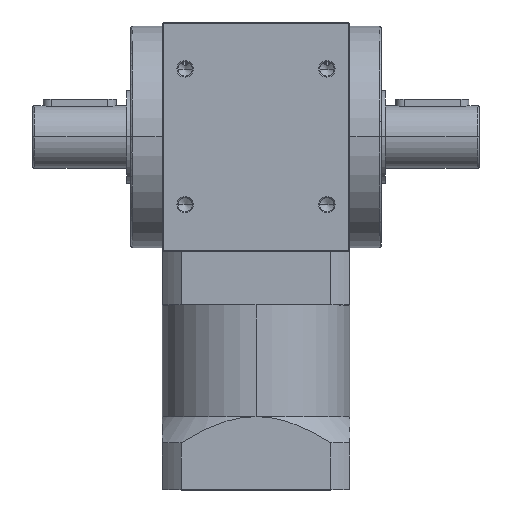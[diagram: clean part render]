
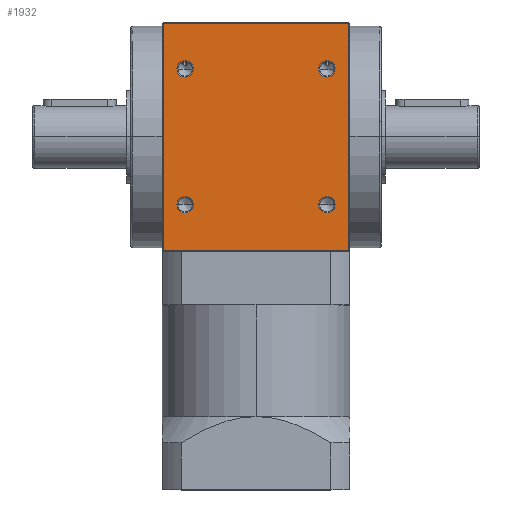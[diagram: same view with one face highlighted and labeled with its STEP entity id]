
A CAD part, top view. The second image highlights one B-rep face of the part: STEP entity #1932.
In plain terms, the highlighted planar face has unit normal (0, 0, 1).
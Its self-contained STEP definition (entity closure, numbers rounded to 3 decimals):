
#5 = CARTESIAN_POINT ( 'NONE',  ( 34., -28.6, 55. ) ) ;
#26 = DIRECTION ( 'NONE',  ( 1., 0., 0. ) ) ;
#64 = EDGE_CURVE ( 'NONE', #9703, #6211, #1436, .T. ) ;
#102 = DIRECTION ( 'NONE',  ( 0., 0., 1. ) ) ;
#118 = EDGE_CURVE ( 'NONE', #5642, #1249, #5252, .T. ) ;
#192 = EDGE_CURVE ( 'NONE', #6527, #5095, #2988, .T. ) ;
#262 = CIRCLE ( 'NONE', #8471, 3.9 ) ;
#284 = ORIENTED_EDGE ( 'NONE', *, *, #7364, .F. ) ;
#373 = DIRECTION ( 'NONE',  ( 1., 0., 0. ) ) ;
#383 = AXIS2_PLACEMENT_3D ( 'NONE', #3881, #8293, #2330 ) ;
#408 = DIRECTION ( 'NONE',  ( 0., 0., 1. ) ) ;
#441 = CARTESIAN_POINT ( 'NONE',  ( -34., -32.5, 55. ) ) ;
#667 = DIRECTION ( 'NONE',  ( 0., 0., 1. ) ) ;
#775 = CARTESIAN_POINT ( 'NONE',  ( 45., -54.5, 55. ) ) ;
#877 = VERTEX_POINT ( 'NONE', #4012 ) ;
#910 = CARTESIAN_POINT ( 'NONE',  ( 34., 32.5, 55. ) ) ;
#1032 = DIRECTION ( 'NONE',  ( 0., 0., 1. ) ) ;
#1072 = PLANE ( 'NONE',  #1179 ) ;
#1153 = AXIS2_PLACEMENT_3D ( 'NONE', #910, #6270, #1691 ) ;
#1159 = FACE_BOUND ( 'NONE', #4848, .T. ) ;
#1179 = AXIS2_PLACEMENT_3D ( 'NONE', #8748, #4190, #9488 ) ;
#1249 = VERTEX_POINT ( 'NONE', #2298 ) ;
#1400 = FACE_BOUND ( 'NONE', #2814, .T. ) ;
#1436 = CIRCLE ( 'NONE', #7246, 3.9 ) ;
#1532 = VECTOR ( 'NONE', #26, 1000. ) ;
#1648 = DIRECTION ( 'NONE',  ( 1., 0., 0. ) ) ;
#1691 = DIRECTION ( 'NONE',  ( 1., 0., 0. ) ) ;
#1719 = DIRECTION ( 'NONE',  ( 0., 0., 1. ) ) ;
#1733 = CARTESIAN_POINT ( 'NONE',  ( 34., 32.5, 55. ) ) ;
#1876 = CARTESIAN_POINT ( 'NONE',  ( 44.5, 55., 55. ) ) ;
#1890 = CARTESIAN_POINT ( 'NONE',  ( 44.5, 54.5, 55. ) ) ;
#1932 = ADVANCED_FACE ( 'NONE', ( #7250, #9255, #1400, #3436, #1159 ), #1072, .F. ) ;
#2011 = LINE ( 'NONE', #5304, #5833 ) ;
#2099 = EDGE_LOOP ( 'NONE', ( #3804, #284, #3968, #4242 ) ) ;
#2212 = ORIENTED_EDGE ( 'NONE', *, *, #2326, .F. ) ;
#2223 = ORIENTED_EDGE ( 'NONE', *, *, #2953, .F. ) ;
#2239 = DIRECTION ( 'NONE',  ( 0., 1., 0. ) ) ;
#2298 = CARTESIAN_POINT ( 'NONE',  ( -37.9, -32.5, 55. ) ) ;
#2326 = EDGE_CURVE ( 'NONE', #1249, #5642, #7100, .T. ) ;
#2330 = DIRECTION ( 'NONE',  ( 1., 0., 0. ) ) ;
#2434 = EDGE_CURVE ( 'NONE', #6053, #877, #2808, .T. ) ;
#2480 = CARTESIAN_POINT ( 'NONE',  ( -37.9, 32.5, 55. ) ) ;
#2552 = CARTESIAN_POINT ( 'NONE',  ( 34., -36.4, 55. ) ) ;
#2607 = DIRECTION ( 'NONE',  ( 0., -1., 0. ) ) ;
#2673 = ORIENTED_EDGE ( 'NONE', *, *, #5706, .F. ) ;
#2761 = CARTESIAN_POINT ( 'NONE',  ( -30.1, 32.5, 55. ) ) ;
#2796 = VERTEX_POINT ( 'NONE', #8097 ) ;
#2808 = LINE ( 'NONE', #1876, #6640 ) ;
#2814 = EDGE_LOOP ( 'NONE', ( #3882, #2673 ) ) ;
#2934 = EDGE_LOOP ( 'NONE', ( #6379, #7155 ) ) ;
#2953 = EDGE_CURVE ( 'NONE', #5095, #6527, #262, .T. ) ;
#2988 = CIRCLE ( 'NONE', #383, 3.9 ) ;
#2999 = DIRECTION ( 'NONE',  ( 0., 0., 1. ) ) ;
#3015 = EDGE_CURVE ( 'NONE', #9609, #3426, #6484, .T. ) ;
#3379 = CIRCLE ( 'NONE', #1153, 3.9 ) ;
#3408 = LINE ( 'NONE', #8088, #9556 ) ;
#3426 = VERTEX_POINT ( 'NONE', #2552 ) ;
#3436 = FACE_BOUND ( 'NONE', #2934, .T. ) ;
#3578 = LINE ( 'NONE', #775, #1532 ) ;
#3630 = AXIS2_PLACEMENT_3D ( 'NONE', #5611, #1032, #6390 ) ;
#3804 = ORIENTED_EDGE ( 'NONE', *, *, #2434, .F. ) ;
#3819 = CARTESIAN_POINT ( 'NONE',  ( -30.1, -32.5, 55. ) ) ;
#3881 = CARTESIAN_POINT ( 'NONE',  ( -34., 32.5, 55. ) ) ;
#3882 = ORIENTED_EDGE ( 'NONE', *, *, #64, .F. ) ;
#3949 = CARTESIAN_POINT ( 'NONE',  ( 37.9, 32.5, 55. ) ) ;
#3968 = ORIENTED_EDGE ( 'NONE', *, *, #4763, .F. ) ;
#4012 = CARTESIAN_POINT ( 'NONE',  ( 44.5, -54.5, 55. ) ) ;
#4031 = CIRCLE ( 'NONE', #7676, 3.9 ) ;
#4190 = DIRECTION ( 'NONE',  ( 0., 0., -1. ) ) ;
#4242 = ORIENTED_EDGE ( 'NONE', *, *, #4869, .T. ) ;
#4297 = DIRECTION ( 'NONE',  ( 1., 0., 0. ) ) ;
#4511 = CARTESIAN_POINT ( 'NONE',  ( 30.1, 32.5, 55. ) ) ;
#4698 = CARTESIAN_POINT ( 'NONE',  ( 34., -32.5, 55. ) ) ;
#4763 = EDGE_CURVE ( 'NONE', #8655, #2796, #2011, .T. ) ;
#4848 = EDGE_LOOP ( 'NONE', ( #9397, #2212 ) ) ;
#4869 = EDGE_CURVE ( 'NONE', #8655, #877, #3578, .T. ) ;
#5095 = VERTEX_POINT ( 'NONE', #2761 ) ;
#5252 = CIRCLE ( 'NONE', #8777, 3.9 ) ;
#5255 = CARTESIAN_POINT ( 'NONE',  ( -34., 32.5, 55. ) ) ;
#5304 = CARTESIAN_POINT ( 'NONE',  ( -44.5, 55., 55. ) ) ;
#5444 = DIRECTION ( 'NONE',  ( 0., -1., 0. ) ) ;
#5565 = EDGE_CURVE ( 'NONE', #3426, #9609, #4031, .T. ) ;
#5611 = CARTESIAN_POINT ( 'NONE',  ( -34., -32.5, 55. ) ) ;
#5642 = VERTEX_POINT ( 'NONE', #3819 ) ;
#5706 = EDGE_CURVE ( 'NONE', #6211, #9703, #3379, .T. ) ;
#5833 = VECTOR ( 'NONE', #2239, 1000. ) ;
#6034 = DIRECTION ( 'NONE',  ( 1., 0., 0. ) ) ;
#6053 = VERTEX_POINT ( 'NONE', #1890 ) ;
#6211 = VERTEX_POINT ( 'NONE', #4511 ) ;
#6270 = DIRECTION ( 'NONE',  ( 0., 0., 1. ) ) ;
#6379 = ORIENTED_EDGE ( 'NONE', *, *, #5565, .F. ) ;
#6390 = DIRECTION ( 'NONE',  ( 1., 0., 0. ) ) ;
#6484 = CIRCLE ( 'NONE', #7257, 3.9 ) ;
#6527 = VERTEX_POINT ( 'NONE', #2480 ) ;
#6640 = VECTOR ( 'NONE', #2607, 1000. ) ;
#6936 = ORIENTED_EDGE ( 'NONE', *, *, #192, .F. ) ;
#7100 = CIRCLE ( 'NONE', #3630, 3.9 ) ;
#7155 = ORIENTED_EDGE ( 'NONE', *, *, #3015, .F. ) ;
#7208 = EDGE_LOOP ( 'NONE', ( #2223, #6936 ) ) ;
#7246 = AXIS2_PLACEMENT_3D ( 'NONE', #1733, #1719, #1648 ) ;
#7250 = FACE_OUTER_BOUND ( 'NONE', #2099, .T. ) ;
#7257 = AXIS2_PLACEMENT_3D ( 'NONE', #4698, #102, #5444 ) ;
#7364 = EDGE_CURVE ( 'NONE', #2796, #6053, #3408, .T. ) ;
#7574 = CARTESIAN_POINT ( 'NONE',  ( 34., -32.5, 55. ) ) ;
#7676 = AXIS2_PLACEMENT_3D ( 'NONE', #7574, #2999, #8334 ) ;
#7739 = CARTESIAN_POINT ( 'NONE',  ( -44.5, -54.5, 55. ) ) ;
#8088 = CARTESIAN_POINT ( 'NONE',  ( 45., 54.5, 55. ) ) ;
#8097 = CARTESIAN_POINT ( 'NONE',  ( -44.5, 54.5, 55. ) ) ;
#8293 = DIRECTION ( 'NONE',  ( 0., 0., 1. ) ) ;
#8334 = DIRECTION ( 'NONE',  ( 0., -1., 0. ) ) ;
#8471 = AXIS2_PLACEMENT_3D ( 'NONE', #5255, #667, #6034 ) ;
#8655 = VERTEX_POINT ( 'NONE', #7739 ) ;
#8748 = CARTESIAN_POINT ( 'NONE',  ( 45., 55., 55. ) ) ;
#8777 = AXIS2_PLACEMENT_3D ( 'NONE', #441, #408, #373 ) ;
#9255 = FACE_BOUND ( 'NONE', #7208, .T. ) ;
#9397 = ORIENTED_EDGE ( 'NONE', *, *, #118, .F. ) ;
#9488 = DIRECTION ( 'NONE',  ( 0., 1., 0. ) ) ;
#9556 = VECTOR ( 'NONE', #4297, 1000. ) ;
#9609 = VERTEX_POINT ( 'NONE', #5 ) ;
#9703 = VERTEX_POINT ( 'NONE', #3949 ) ;
